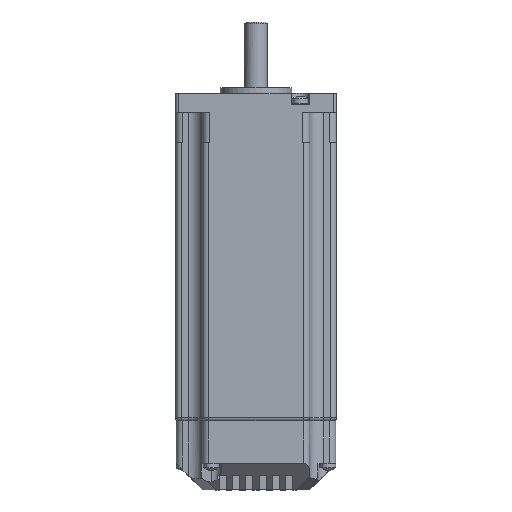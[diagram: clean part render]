
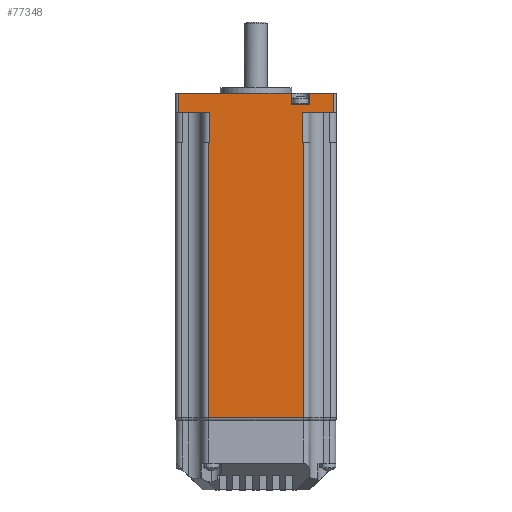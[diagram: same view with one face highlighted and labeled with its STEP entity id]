
A CAD part, top view. The second image highlights one B-rep face of the part: STEP entity #77348.
In plain terms, the highlighted planar face has unit normal (0, 0, 1).
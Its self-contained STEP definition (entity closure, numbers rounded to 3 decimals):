
#21875=DIRECTION('',(1.,0.,0.));
#21876=VECTOR('',#21875,34.);
#21877=CARTESIAN_POINT('',(-17.,-19.5,28.5));
#21878=LINE('',#21877,#21876);
#22215=DIRECTION('',(1.,0.,0.));
#22216=VECTOR('',#22215,0.5);
#22217=CARTESIAN_POINT('',(16.5,78.,28.5));
#22218=LINE('',#22217,#22216);
#22219=DIRECTION('',(0.,1.,0.));
#22220=VECTOR('',#22219,10.7);
#22221=CARTESIAN_POINT('',(16.5,78.,28.5));
#22222=LINE('',#22221,#22220);
#22227=DIRECTION('',(-1.,0.,0.));
#22228=VECTOR('',#22227,11.);
#22229=CARTESIAN_POINT('',(-16.5,88.7,28.5));
#22230=LINE('',#22229,#22228);
#22231=DIRECTION('',(1.,0.,0.));
#22232=VECTOR('',#22231,39.95);
#22233=CARTESIAN_POINT('',(-27.5,95.5,28.5));
#22234=LINE('',#22233,#22232);
#22235=DIRECTION('',(1.,0.,0.));
#22236=VECTOR('',#22235,6.5);
#22237=CARTESIAN_POINT('',(12.45,91.5,28.5));
#22238=LINE('',#22237,#22236);
#22239=DIRECTION('',(0.,1.,0.));
#22240=VECTOR('',#22239,4.);
#22241=CARTESIAN_POINT('',(18.95,91.5,28.5));
#22242=LINE('',#22241,#22240);
#22243=DIRECTION('',(1.,0.,0.));
#22244=VECTOR('',#22243,8.55);
#22245=CARTESIAN_POINT('',(18.95,95.5,28.5));
#22246=LINE('',#22245,#22244);
#22247=DIRECTION('',(-1.,0.,0.));
#22248=VECTOR('',#22247,11.);
#22249=CARTESIAN_POINT('',(27.5,88.7,28.5));
#22250=LINE('',#22249,#22248);
#22251=DIRECTION('',(0.,1.,0.));
#22252=VECTOR('',#22251,97.5);
#22253=CARTESIAN_POINT('',(-17.,-19.5,28.5));
#22254=LINE('',#22253,#22252);
#22260=DIRECTION('',(1.,0.,0.));
#22261=VECTOR('',#22260,0.5);
#22262=CARTESIAN_POINT('',(-17.,78.,28.5));
#22263=LINE('',#22262,#22261);
#22277=DIRECTION('',(0.,-1.,0.));
#22278=VECTOR('',#22277,10.7);
#22279=CARTESIAN_POINT('',(-16.5,88.7,28.5));
#22280=LINE('',#22279,#22278);
#23789=DIRECTION('',(0.,1.,0.));
#23790=VECTOR('',#23789,6.8);
#23791=CARTESIAN_POINT('',(27.5,88.7,28.5));
#23792=LINE('',#23791,#23790);
#23866=DIRECTION('',(0.,1.,0.));
#23867=VECTOR('',#23866,4.);
#23868=CARTESIAN_POINT('',(12.45,91.5,28.5));
#23869=LINE('',#23868,#23867);
#24367=DIRECTION('',(0.,-1.,0.));
#24368=VECTOR('',#24367,6.8);
#24369=CARTESIAN_POINT('',(-27.5,95.5,28.5));
#24370=LINE('',#24369,#24368);
#34454=DIRECTION('',(0.,1.,0.));
#34455=VECTOR('',#34454,97.5);
#34456=CARTESIAN_POINT('',(17.,-19.5,28.5));
#34457=LINE('',#34456,#34455);
#37188=CARTESIAN_POINT('',(17.,-19.5,28.5));
#37189=VERTEX_POINT('',#37188);
#37190=CARTESIAN_POINT('',(-17.,-19.5,28.5));
#37191=VERTEX_POINT('',#37190);
#37335=CARTESIAN_POINT('',(-17.,78.,28.5));
#37337=VERTEX_POINT('',#37335);
#37338=CARTESIAN_POINT('',(17.,78.,28.5));
#37340=VERTEX_POINT('',#37338);
#39968=CARTESIAN_POINT('',(27.5,95.5,28.5));
#39969=VERTEX_POINT('',#39968);
#39970=CARTESIAN_POINT('',(18.95,95.5,28.5));
#39971=VERTEX_POINT('',#39970);
#39976=CARTESIAN_POINT('',(12.45,95.5,28.5));
#39977=VERTEX_POINT('',#39976);
#39978=CARTESIAN_POINT('',(-27.5,95.5,28.5));
#39979=VERTEX_POINT('',#39978);
#40045=CARTESIAN_POINT('',(-27.5,88.7,28.5));
#40047=VERTEX_POINT('',#40045);
#40048=CARTESIAN_POINT('',(-16.5,88.7,28.5));
#40049=VERTEX_POINT('',#40048);
#40058=CARTESIAN_POINT('',(12.45,91.5,28.5));
#40059=VERTEX_POINT('',#40058);
#40060=CARTESIAN_POINT('',(18.95,91.5,28.5));
#40061=VERTEX_POINT('',#40060);
#40062=CARTESIAN_POINT('',(27.5,88.7,28.5));
#40063=VERTEX_POINT('',#40062);
#40064=CARTESIAN_POINT('',(16.5,88.7,28.5));
#40065=VERTEX_POINT('',#40064);
#40222=CARTESIAN_POINT('',(16.5,78.,28.5));
#40224=VERTEX_POINT('',#40222);
#40226=CARTESIAN_POINT('',(-16.5,78.,28.5));
#40228=VERTEX_POINT('',#40226);
#77312=CARTESIAN_POINT('',(-28.5,0.,28.5));
#77313=DIRECTION('',(0.,0.,1.));
#77314=DIRECTION('',(1.,0.,0.));
#77315=AXIS2_PLACEMENT_3D('',#77312,#77313,#77314);
#77316=PLANE('',#77315);
#77318=ORIENTED_EDGE('',*,*,#77317,.T.);
#77320=ORIENTED_EDGE('',*,*,#77319,.F.);
#77322=ORIENTED_EDGE('',*,*,#77321,.T.);
#77324=ORIENTED_EDGE('',*,*,#77323,.F.);
#77326=ORIENTED_EDGE('',*,*,#77325,.T.);
#77328=ORIENTED_EDGE('',*,*,#77327,.F.);
#77330=ORIENTED_EDGE('',*,*,#77329,.T.);
#77332=ORIENTED_EDGE('',*,*,#77331,.T.);
#77334=ORIENTED_EDGE('',*,*,#77333,.T.);
#77336=ORIENTED_EDGE('',*,*,#77335,.F.);
#77338=ORIENTED_EDGE('',*,*,#77337,.T.);
#77339=ORIENTED_EDGE('',*,*,#77304,.F.);
#77340=ORIENTED_EDGE('',*,*,#77293,.T.);
#77342=ORIENTED_EDGE('',*,*,#77341,.F.);
#77343=ORIENTED_EDGE('',*,*,#76837,.F.);
#77345=ORIENTED_EDGE('',*,*,#77344,.T.);
#77346=EDGE_LOOP('',(#77318,#77320,#77322,#77324,#77326,#77328,#77330,#77332,
#77334,#77336,#77338,#77339,#77340,#77342,#77343,#77345));
#77347=FACE_OUTER_BOUND('',#77346,.F.);
#77348=ADVANCED_FACE('',(#77347),#77316,.T.);
#76837=EDGE_CURVE('',#37191,#37189,#21878,.T.);
#77293=EDGE_CURVE('',#40224,#37340,#22218,.T.);
#77304=EDGE_CURVE('',#40224,#40065,#22222,.T.);
#77317=EDGE_CURVE('',#37337,#40228,#22263,.T.);
#77319=EDGE_CURVE('',#40049,#40228,#22280,.T.);
#77321=EDGE_CURVE('',#40049,#40047,#22230,.T.);
#77323=EDGE_CURVE('',#39979,#40047,#24370,.T.);
#77325=EDGE_CURVE('',#39979,#39977,#22234,.T.);
#77327=EDGE_CURVE('',#40059,#39977,#23869,.T.);
#77329=EDGE_CURVE('',#40059,#40061,#22238,.T.);
#77331=EDGE_CURVE('',#40061,#39971,#22242,.T.);
#77333=EDGE_CURVE('',#39971,#39969,#22246,.T.);
#77335=EDGE_CURVE('',#40063,#39969,#23792,.T.);
#77337=EDGE_CURVE('',#40063,#40065,#22250,.T.);
#77341=EDGE_CURVE('',#37189,#37340,#34457,.T.);
#77344=EDGE_CURVE('',#37191,#37337,#22254,.T.);
